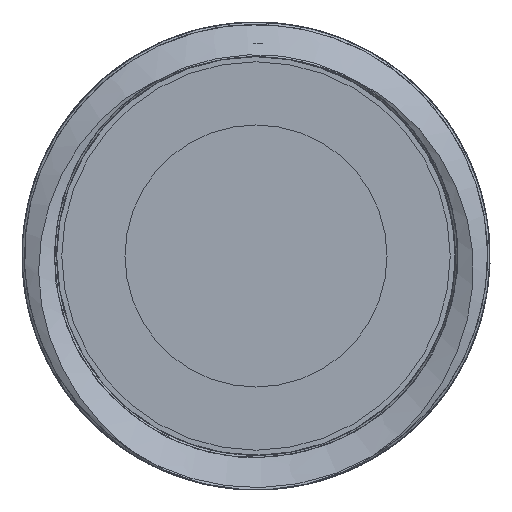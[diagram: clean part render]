
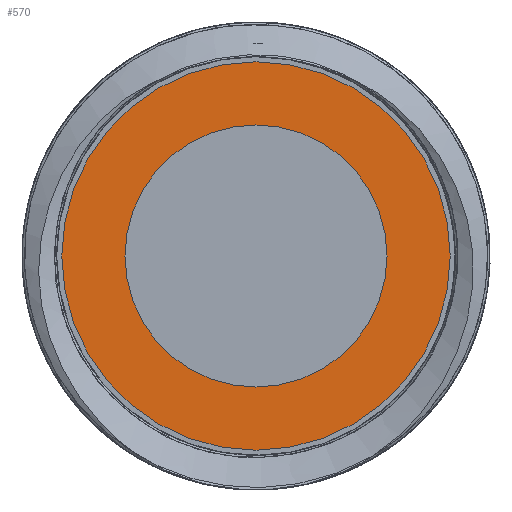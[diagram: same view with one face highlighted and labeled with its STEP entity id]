
A CAD part, front view. The second image highlights one B-rep face of the part: STEP entity #570.
In plain terms, the highlighted planar face has unit normal (0, -1, 0).
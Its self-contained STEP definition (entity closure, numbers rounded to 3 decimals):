
#47=PLANE('',#620);
#58=FACE_BOUND('',#134,.T.);
#70=CIRCLE('',#614,1.4);
#72=CIRCLE('',#619,2.075);
#87=FACE_OUTER_BOUND('',#133,.T.);
#133=EDGE_LOOP('',(#399));
#134=EDGE_LOOP('',(#400));
#242=VERTEX_POINT('',#763);
#244=VERTEX_POINT('',#770);
#303=EDGE_CURVE('',#242,#242,#70,.T.);
#305=EDGE_CURVE('',#244,#244,#72,.T.);
#399=ORIENTED_EDGE('',*,*,#305,.T.);
#400=ORIENTED_EDGE('',*,*,#303,.T.);
#570=ADVANCED_FACE('',(#87,#58),#47,.T.);
#614=AXIS2_PLACEMENT_3D('',#764,#664,#665);
#619=AXIS2_PLACEMENT_3D('',#771,#674,#675);
#620=AXIS2_PLACEMENT_3D('',#772,#676,#677);
#664=DIRECTION('center_axis',(0.,1.,0.));
#665=DIRECTION('ref_axis',(-1.,0.,0.));
#674=DIRECTION('center_axis',(0.,-1.,0.));
#675=DIRECTION('ref_axis',(1.,0.,0.));
#676=DIRECTION('center_axis',(0.,-1.,0.));
#677=DIRECTION('ref_axis',(0.,0.,-1.));
#763=CARTESIAN_POINT('',(1.4,-25.,0.));
#764=CARTESIAN_POINT('Origin',(0.,-25.,0.));
#770=CARTESIAN_POINT('',(2.075,-25.,0.));
#771=CARTESIAN_POINT('Origin',(0.,-25.,0.));
#772=CARTESIAN_POINT('Origin',(0.,-25.,0.));
